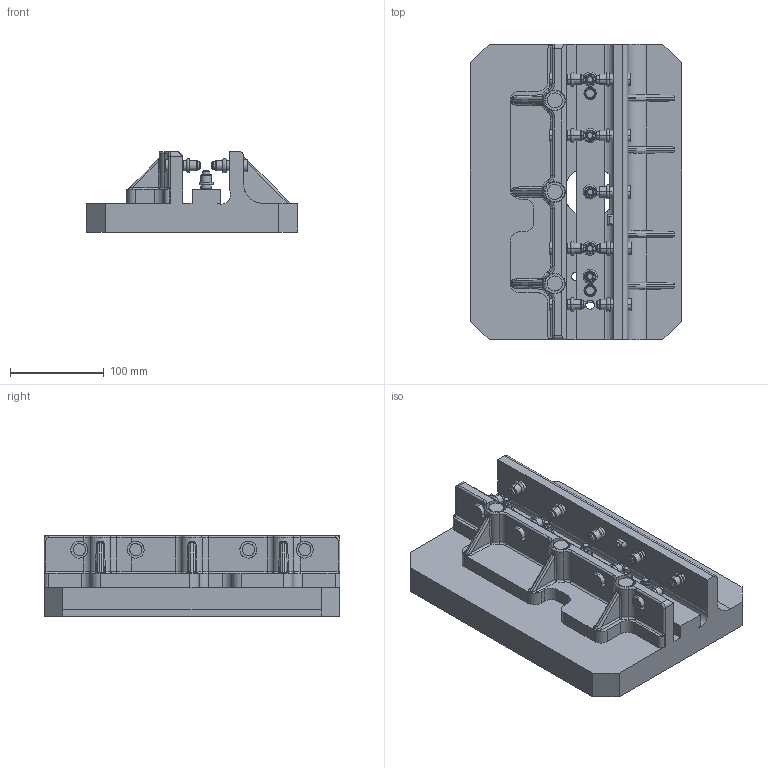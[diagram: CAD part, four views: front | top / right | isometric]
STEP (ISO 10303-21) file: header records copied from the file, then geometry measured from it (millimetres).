
FILE_DESCRIPTION(('CATIA V5 STEP Exchange','CAx-IF Rec.Pracs.--- Model Styling and Organization---1.2---2011-12-15'),'2;1');
FILE_NAME('\\SVARKONVERT2\Konvert\CatiaV5-Step_out\EGT049_1706184_FLANSCHPLATTE_SW50.stp','2015-10-29T15:06:54+00:00',('none'),('none'),'CATIA Version 5-6 Release 2014 SP1 HF51','CATIA V5 STEP AP214','none');
FILE_SCHEMA(('AUTOMOTIVE_DESIGN { 1 0 10303 214 1 1 1 1 }'));
Length unit declared in the file: millimetre
Products named in the file (1): EGT049_1706184_FLANSCHPLATTE_SW50
Bounding box: 225 x 315 x 86 mm (x, y, z)
Volume: 2917213 mm3; surface area: 356950.8 mm2
Topology: 37 solids, 37 shells, 886 faces, 2192 edges, 1457 vertices
Faces by surface type: cylinder 417, plane 251, cone 134, torus 57, bspline 21, sphere 6
Entity records: 34468 total; most frequent: CARTESIAN_POINT 17474, ORIENTED_EDGE 4372, EDGE_CURVE 2186, B_SPLINE_CURVE_WITH_KNOTS 2024, DIRECTION 1730, VERTEX_POINT 1457, EDGE_LOOP 1055, ADVANCED_FACE 886
